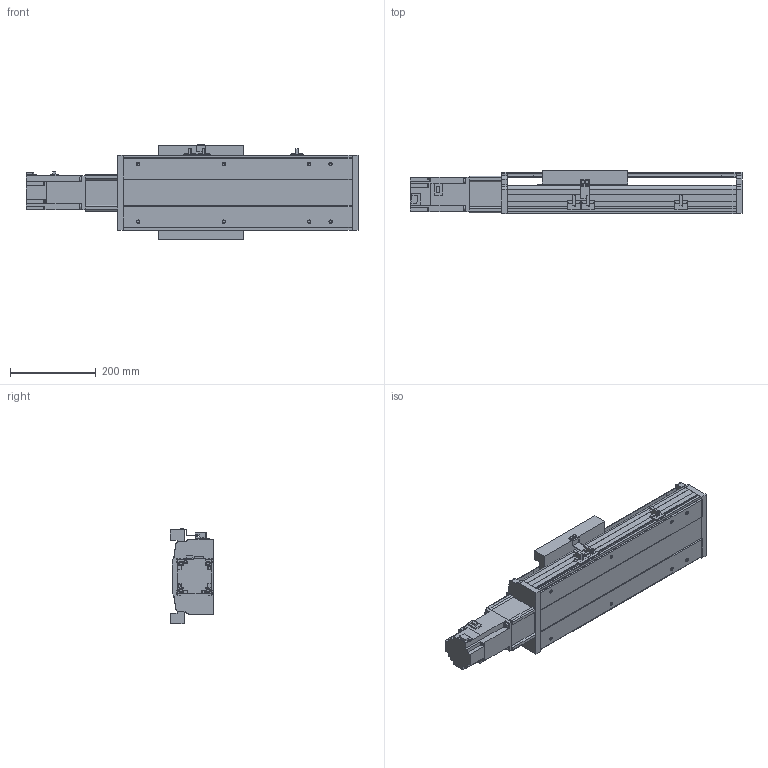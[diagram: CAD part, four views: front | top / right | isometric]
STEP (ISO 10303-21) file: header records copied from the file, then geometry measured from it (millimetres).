
FILE_DESCRIPTION(/* description */ ('STEP AP214'),/* implementation_level */ '2;1');
FILE_NAME(/* name */ 'PSS200-L10-S200-BC-T75-C1-N(0)',/* time_stamp */ '2022-06-06T04:33:41+02:00',/* author */ ('License CC BY-ND 4.0'),/* organization */ ('CADENAS'),/* preprocessor_version */ 'ST-DEVELOPER v18.102',/* originating_system */ 'PARTsolutions',/* authorisation */ ' ');
FILE_SCHEMA (('AUTOMOTIVE_DESIGN {1 0 10303 214 3 1 1}'));
Length unit declared in the file: millimetre
Products named in the file (8): PSS200-L10-S200-BC-T75-C1-N(0); PSS200-S200-BC-N_S; T75-p1; PSS200BC-N_h; PSS200-N_sensor; PSS200-BC-C1-N_sl; PSS200-N_Q; PSS200-S200-BC-C1-N_body
Assembly tree (9 placements, depth 2):
  PSS200-L10-S200-BC-T75-C1-N(0)
    PSS200-S200-BC-N_S
    T75-p1
    PSS200BC-N_h
    PSS200-N_sensor  x3
    PSS200-BC-C1-N_sl
    PSS200-N_Q
    PSS200-S200-BC-C1-N_body
Bounding box: 776.3 x 101.5 x 223.86 mm (x, y, z)
Volume: 5034695.1 mm3; surface area: 1104779.6 mm2
Topology: 9 solids, 9 shells, 569 faces, 1519 edges, 1008 vertices
Faces by surface type: plane 439, cylinder 114, cone 16
Full cylindrical faces by diameter (mm): 4 x2, 4.5 x4, 6 x11, 6.647 x12, 8 x8, 10 x6, 25 x1, 67 x1, 70 x1
Entity records: 15842 total; most frequent: CARTESIAN_POINT 2748, ORIENTED_EDGE 2606, DIRECTION 2601, EDGE_CURVE 1303, LINE 1051, VECTOR 1051, VERTEX_POINT 902, AXIS2_PLACEMENT_3D 775
